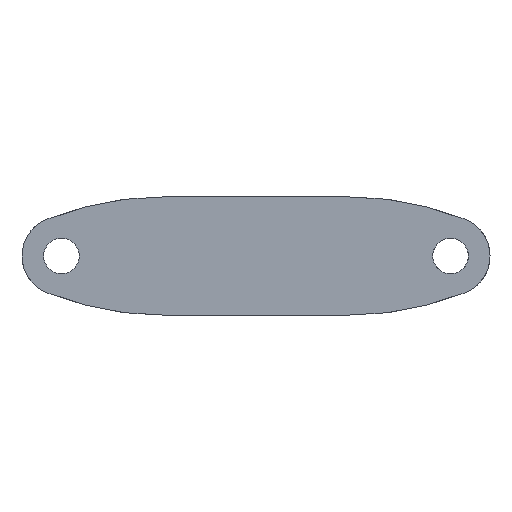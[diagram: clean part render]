
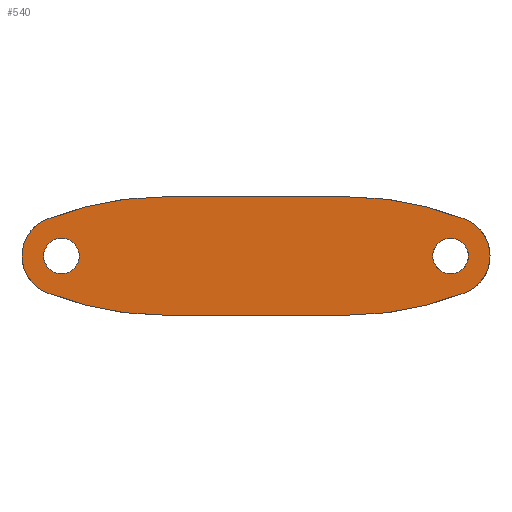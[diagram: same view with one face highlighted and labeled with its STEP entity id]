
A CAD part, front view. The second image highlights one B-rep face of the part: STEP entity #540.
In plain terms, the highlighted planar face has unit normal (0, -1, 0).
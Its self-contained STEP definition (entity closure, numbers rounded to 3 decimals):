
#24=FACE_BOUND('',#174,.T.);
#25=FACE_BOUND('',#175,.T.);
#31=PLANE('',#602);
#58=LINE('',#1231,#85);
#59=LINE('',#1232,#86);
#85=VECTOR('',#745,10.);
#86=VECTOR('',#746,10.);
#135=FACE_OUTER_BOUND('',#173,.T.);
#173=EDGE_LOOP('',(#469,#470,#471,#472,#473,#474,#475,#476));
#174=EDGE_LOOP('',(#477));
#175=EDGE_LOOP('',(#478));
#211=CIRCLE('',#569,40.703);
#216=CIRCLE('',#580,2.25);
#217=CIRCLE('',#582,2.25);
#220=CIRCLE('',#590,40.703);
#221=CIRCLE('',#593,5.);
#222=CIRCLE('',#596,40.703);
#223=CIRCLE('',#598,5.);
#224=CIRCLE('',#600,40.703);
#249=VERTEX_POINT('',#1087);
#250=VERTEX_POINT('',#1089);
#257=VERTEX_POINT('',#1178);
#258=VERTEX_POINT('',#1182);
#264=VERTEX_POINT('',#1199);
#265=VERTEX_POINT('',#1201);
#267=VERTEX_POINT('',#1207);
#269=VERTEX_POINT('',#1213);
#270=VERTEX_POINT('',#1217);
#272=VERTEX_POINT('',#1223);
#309=EDGE_CURVE('',#250,#249,#211,.T.);
#319=EDGE_CURVE('',#257,#257,#216,.T.);
#321=EDGE_CURVE('',#258,#258,#217,.T.);
#330=EDGE_CURVE('',#265,#264,#220,.T.);
#333=EDGE_CURVE('',#267,#265,#221,.T.);
#336=EDGE_CURVE('',#269,#267,#222,.T.);
#339=EDGE_CURVE('',#249,#270,#223,.T.);
#342=EDGE_CURVE('',#270,#272,#224,.T.);
#345=EDGE_CURVE('',#250,#264,#58,.T.);
#346=EDGE_CURVE('',#272,#269,#59,.T.);
#469=ORIENTED_EDGE('',*,*,#336,.T.);
#470=ORIENTED_EDGE('',*,*,#333,.T.);
#471=ORIENTED_EDGE('',*,*,#330,.T.);
#472=ORIENTED_EDGE('',*,*,#345,.F.);
#473=ORIENTED_EDGE('',*,*,#309,.T.);
#474=ORIENTED_EDGE('',*,*,#339,.T.);
#475=ORIENTED_EDGE('',*,*,#342,.T.);
#476=ORIENTED_EDGE('',*,*,#346,.T.);
#477=ORIENTED_EDGE('',*,*,#319,.T.);
#478=ORIENTED_EDGE('',*,*,#321,.T.);
#540=ADVANCED_FACE('',(#135,#24,#25),#31,.T.);
#569=AXIS2_PLACEMENT_3D('',#1090,#661,#662);
#580=AXIS2_PLACEMENT_3D('',#1179,#686,#687);
#582=AXIS2_PLACEMENT_3D('',#1183,#691,#692);
#590=AXIS2_PLACEMENT_3D('',#1202,#711,#712);
#593=AXIS2_PLACEMENT_3D('',#1208,#718,#719);
#596=AXIS2_PLACEMENT_3D('',#1214,#725,#726);
#598=AXIS2_PLACEMENT_3D('',#1219,#731,#732);
#600=AXIS2_PLACEMENT_3D('',#1225,#737,#738);
#602=AXIS2_PLACEMENT_3D('',#1230,#743,#744);
#661=DIRECTION('center_axis',(0.,-1.,0.));
#662=DIRECTION('ref_axis',(0.,0.,1.));
#686=DIRECTION('center_axis',(0.,1.,0.));
#687=DIRECTION('ref_axis',(0.,0.,-1.));
#691=DIRECTION('center_axis',(0.,1.,0.));
#692=DIRECTION('ref_axis',(0.,0.,-1.));
#711=DIRECTION('center_axis',(0.,-1.,0.));
#712=DIRECTION('ref_axis',(0.368,0.,0.93));
#718=DIRECTION('center_axis',(0.,-1.,0.));
#719=DIRECTION('ref_axis',(1.,0.,0.));
#725=DIRECTION('center_axis',(0.,-1.,0.));
#726=DIRECTION('ref_axis',(0.,0.,-1.));
#731=DIRECTION('center_axis',(0.,-1.,0.));
#732=DIRECTION('ref_axis',(1.,0.,0.));
#737=DIRECTION('center_axis',(0.,-1.,0.));
#738=DIRECTION('ref_axis',(-0.368,0.,-0.93));
#743=DIRECTION('center_axis',(0.,-1.,0.));
#744=DIRECTION('ref_axis',(1.,0.,0.));
#745=DIRECTION('',(1.,0.,0.));
#746=DIRECTION('',(1.,0.,0.));
#1087=CARTESIAN_POINT('',(3.662,0.,12.15));
#1089=CARTESIAN_POINT('',(18.625,0.,15.));
#1090=CARTESIAN_POINT('Origin',(18.625,0.,-25.703));
#1178=CARTESIAN_POINT('',(5.5,0.,9.75));
#1179=CARTESIAN_POINT('Origin',(5.5,0.,7.5));
#1182=CARTESIAN_POINT('',(54.75,0.,9.75));
#1183=CARTESIAN_POINT('Origin',(54.75,0.,7.5));
#1199=CARTESIAN_POINT('',(41.625,0.,15.));
#1201=CARTESIAN_POINT('',(56.588,0.,12.15));
#1202=CARTESIAN_POINT('Origin',(41.625,0.,-25.703));
#1207=CARTESIAN_POINT('',(56.588,0.,2.85));
#1208=CARTESIAN_POINT('Origin',(54.75,0.,7.5));
#1213=CARTESIAN_POINT('',(41.625,0.,0.));
#1214=CARTESIAN_POINT('Origin',(41.625,0.,40.703));
#1217=CARTESIAN_POINT('',(3.662,0.,2.85));
#1219=CARTESIAN_POINT('Origin',(5.5,0.,7.5));
#1223=CARTESIAN_POINT('',(18.625,0.,0.));
#1225=CARTESIAN_POINT('Origin',(18.625,0.,40.703));
#1230=CARTESIAN_POINT('Origin',(0.,0.,0.));
#1231=CARTESIAN_POINT('',(0.,0.,15.));
#1232=CARTESIAN_POINT('',(0.,0.,0.));
